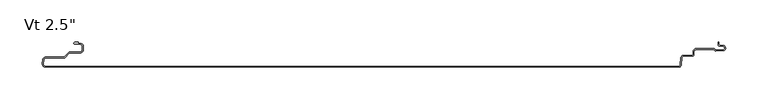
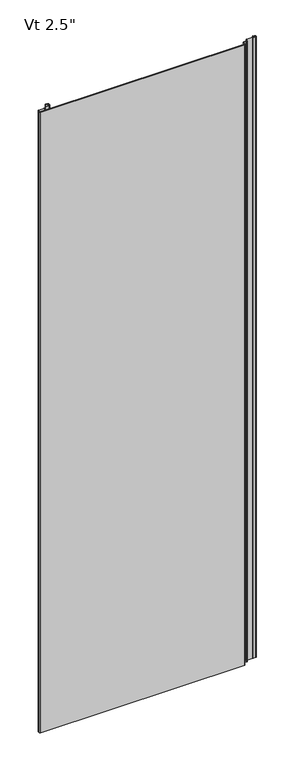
"""IFC4 building model written with IfcOpenShell, lengths in millimetres: plate geometry."""

from ifc_helpers import new_model, si_unit, point, frame_2d, origin, origin_with_axes, place, context, project, spatial, polyline, circle_curve, trimmed, segment, composite_curve, outline, extrude, source, transform, mapped, element, save


def plate_d3c0d014(model_context):
    return source(origin(), model_context, "Body", "SweptSolid", [
        extrude(outline(composite_curve([segment(polyline([(-417.0087549, -59.6184064), (-416.5690675, -54.594441)]), True, "CONTINUOUS"), segment(trimmed(circle_curve(frame_2d((-412.9198392, -55.2052421)), 3.6999926), [point((-416.5690675, -54.594441))], [point((-412.9198392, -51.5052495))], False, "CARTESIAN"), True, "CONTINUOUS"), segment(polyline([(-412.9198392, -51.5052495), (-391.7773997, -51.5052495)]), True, "CONTINUOUS"), segment(trimmed(circle_curve(frame_2d((-391.7773997, -50.2052521)), 1.2999974), [point((-391.7773997, -51.5052495))], [point((-390.8581627, -51.1244891))], True, "CARTESIAN"), True, "CONTINUOUS"), segment(polyline([(-390.8581627, -51.1244891), (-386.0297453, -46.2960716)]), True, "CONTINUOUS"), segment(trimmed(circle_curve(frame_2d((-384.1205608, -48.2052561)), 2.6999946), [point((-386.0297453, -46.2960716))], [point((-384.1205608, -45.5052615))], False, "CARTESIAN"), True, "CONTINUOUS"), segment(polyline([(-384.1205608, -45.5052615), (-372.3096717, -45.5052615)]), True, "CONTINUOUS"), segment(trimmed(circle_curve(frame_2d((-372.3096717, -43.1552662)), 2.3499953), [point((-372.3096717, -45.5052615))], [point((-369.9596764, -43.1552662))], True, "CARTESIAN"), True, "CONTINUOUS"), segment(polyline([(-369.9596764, -43.1552662), (-369.9596764, -38.755275)]), True, "CONTINUOUS"), segment(trimmed(circle_curve(frame_2d((-372.3096717, -38.755275)), 2.3499953), [point((-369.9596764, -38.755275))], [point((-372.3096717, -36.4052797))], True, "CARTESIAN"), True, "CONTINUOUS"), segment(polyline([(-372.3096717, -36.4052797), (-378.8289779, -36.4052797)]), True, "CONTINUOUS"), segment(trimmed(circle_curve(frame_2d((-378.7686908, -35.2067974)), 1.1999976), [point((-378.8289779, -36.4052797))], [point((-379.9683001, -35.1762755))], False, "CARTESIAN"), True, "CONTINUOUS"), segment(trimmed(circle_curve(frame_2d((-378.7686908, -35.2067974)), 1.1999976), [point((-379.9683001, -35.1762755))], [point((-378.7671761, -34.0068008))], False, "CARTESIAN"), True, "CONTINUOUS"), segment(polyline([(-378.7671761, -34.0068008), (-375.0087827, -34.0068008), (-375.0087827, -35.4052797), (-372.3096717, -35.4052797)]), True, "CONTINUOUS"), segment(trimmed(circle_curve(frame_2d((-372.3096717, -38.755275)), 3.3499953), [point((-372.3096717, -35.4052797))], [point((-368.9596764, -38.755275))], False, "CARTESIAN"), True, "CONTINUOUS"), segment(polyline([(-368.9596764, -38.755275), (-368.9596764, -43.1552662)]), True, "CONTINUOUS"), segment(trimmed(circle_curve(frame_2d((-372.3096717, -43.1552662)), 3.3499953), [point((-368.9596764, -43.1552662))], [point((-372.3096717, -46.5052615))], False, "CARTESIAN"), True, "CONTINUOUS"), segment(polyline([(-372.3096717, -46.5052615), (-384.1205608, -46.5052615)]), True, "CONTINUOUS"), segment(trimmed(circle_curve(frame_2d((-384.1205608, -48.2052561)), 1.6999946), [point((-384.1205608, -46.5052615))], [point((-385.3226385, -47.0031784))], True, "CARTESIAN"), True, "CONTINUOUS"), segment(polyline([(-385.3226385, -47.0031784), (-390.8247096, -52.5052495), (-412.9198392, -52.5052495)]), True, "CONTINUOUS"), segment(trimmed(circle_curve(frame_2d((-412.9198392, -55.2052421)), 2.6999926), [point((-412.9198392, -52.5052495))], [point((-415.5765709, -54.7238515))], True, "CARTESIAN"), True, "CONTINUOUS"), segment(polyline([(-415.5765709, -54.7238515), (-416.0125699, -59.7056723)]), True, "CONTINUOUS"), segment(trimmed(circle_curve(frame_2d((-413.4521176, -59.929758)), 2.5702393), [point((-416.0125699, -59.7056723))], [point((-413.509446, -62.4993578))], True, "CARTESIAN"), True, "CONTINUOUS"), segment(polyline([(-413.509446, -62.4993578), (332.5384359, -62.4993578)]), True, "CONTINUOUS"), segment(trimmed(circle_curve(frame_2d((332.5384359, -60.5493637)), 1.9499941), [point((332.5384359, -62.4993578))], [point((334.4810097, -60.7193169))], True, "CARTESIAN"), True, "CONTINUOUS"), segment(polyline([(334.4810097, -60.7193169), (335.2215397, -52.2550205)]), True, "CONTINUOUS"), segment(trimmed(circle_curve(frame_2d((338.2400056, -52.519102)), 3.0299959), [point((335.2215397, -52.2550205))], [point((338.3657441, -49.4917162))], False, "CARTESIAN"), True, "CONTINUOUS"), segment(polyline([(338.3657441, -49.4917162), (348.4586765, -49.4917162)]), True, "CONTINUOUS"), segment(trimmed(circle_curve(frame_2d((348.4595944, -48.5425632)), 0.9491534), [point((348.4586765, -49.4917162))], [point((349.4087478, -48.5425632))], True, "CARTESIAN"), True, "CONTINUOUS"), segment(polyline([(349.4087478, -48.5425632), (349.4087475, -45.4011631)]), True, "CONTINUOUS"), segment(trimmed(circle_curve(frame_2d((353.4087415, -45.4011631)), 3.999994), [point((349.4087475, -45.4011631))], [point((353.4087415, -41.4011691))], False, "CARTESIAN"), True, "CONTINUOUS"), segment(polyline([(353.4087415, -41.4011691), (374.5895515, -41.4011691), (375.7334028, -43.3823775), (384.706811, -43.0271172)]), True, "CONTINUOUS"), segment(trimmed(circle_curve(frame_2d((384.6236622, -40.9268886)), 2.1018739), [point((384.706811, -43.0271172))], [point((384.7037148, -38.8265397))], True, "CARTESIAN"), True, "CONTINUOUS"), segment(polyline([(384.7037148, -38.8265397), (380.6977997, -38.5821247)]), True, "CONTINUOUS"), segment(trimmed(circle_curve(frame_2d((380.8099653, -36.7437512)), 1.8417922), [point((380.6977997, -38.5821247))], [point((378.9686884, -36.7873122))], False, "CARTESIAN"), True, "CONTINUOUS"), segment(polyline([(378.9686884, -36.7873122), (378.9686884, -34.0027656), (379.9686884, -34.0027656), (379.9686884, -36.7731984)]), True, "CONTINUOUS"), segment(trimmed(circle_curve(frame_2d((380.8099653, -36.7437512)), 0.8417922), [point((379.9686884, -36.7731984))], [point((380.7587, -37.5839809))], True, "CARTESIAN"), True, "CONTINUOUS"), segment(polyline([(380.7587, -37.5839809), (384.7543204, -37.8277677)]), True, "CONTINUOUS"), segment(trimmed(circle_curve(frame_2d((384.6236622, -40.9268886)), 3.1018739), [point((384.7543204, -37.8277677))], [point((384.7463704, -44.0263344))], False, "CARTESIAN"), True, "CONTINUOUS"), segment(polyline([(384.7463704, -44.0263344), (376.0344401, -44.3712428)]), True, "CONTINUOUS"), segment(trimmed(circle_curve(frame_2d((375.987224, -42.9220146)), 1.4499971), [point((376.0344401, -44.3712428))], [point((374.7314897, -43.6470132))], False, "CARTESIAN"), True, "CONTINUOUS"), segment(polyline([(374.7314897, -43.6470132), (374.0122013, -42.4011691), (353.4087415, -42.4011691)]), True, "CONTINUOUS"), segment(trimmed(circle_curve(frame_2d((353.4087415, -45.4011631)), 2.999994), [point((353.4087415, -42.4011691))], [point((350.4087475, -45.4011631))], True, "CARTESIAN"), True, "CONTINUOUS"), segment(polyline([(350.4087475, -45.4011631), (350.4087475, -48.5425632)]), True, "CONTINUOUS"), segment(trimmed(circle_curve(frame_2d((348.4595944, -48.5425632)), 1.9491534), [point((350.4087475, -48.5425632))], [point((348.458279, -50.4917162))], False, "CARTESIAN"), True, "CONTINUOUS"), segment(polyline([(348.458279, -50.4917162), (338.3429135, -50.4917162)]), True, "CONTINUOUS"), segment(trimmed(circle_curve(frame_2d((338.2400056, -52.519102)), 2.0299959), [point((338.3429135, -50.4917162))], [point((336.2177344, -52.3421762))], True, "CARTESIAN"), True, "CONTINUOUS"), segment(polyline([(336.2177344, -52.3421762), (335.4771973, -60.8065539)]), True, "CONTINUOUS"), segment(trimmed(circle_curve(frame_2d((332.5384288, -60.549445)), 2.9499941), [point((335.4771973, -60.8065539))], [point((332.5384307, -63.4994391))], False, "CARTESIAN"), True, "CONTINUOUS"), segment(polyline([(332.5384307, -63.4994391), (-413.4521083, -63.4999161)]), True, "CONTINUOUS"), segment(trimmed(circle_curve(frame_2d((-413.4521105, -59.9296768)), 3.5702393), [point((-413.4521083, -63.4999161))], [point((-417.0087549, -59.6184064))], False, "CARTESIAN"), True, "CONTINUOUS")], self_intersect=False)), origin_with_axes(), (0.0, 0.0, 1.0), 2400.0),
    ])


if __name__ == "__main__":
    model = new_model("IFC4")
    model_context = context("Model", 3, world=origin())
    ifc_project = project(units=[si_unit("LENGTHUNIT", "METRE", prefix="MILLI")], contexts=[model_context])
    site = spatial("IfcSite", under=ifc_project)
    building = spatial("IfcBuilding", under=site)
    placement = place(None, origin())
    plate_shape = plate_d3c0d014(model_context)
    element("IfcPlate", 1, ObjectType="KIP-30-Karrier-KP-R19-CP-Vt-FL3-8_SL : Vt 2.5\"", at=placement, inside=building, context=model_context, shape_type="MappedRepresentation", body=[
        mapped(plate_shape, transform((0.0, 0.0, 0.0), x_axis=(1.0, 0.0, 0.0), y_axis=(0.0, 1.0, 0.0), z_axis=(0.0, 0.0, 1.0))),
    ])
    save(model, "model.ifc")
